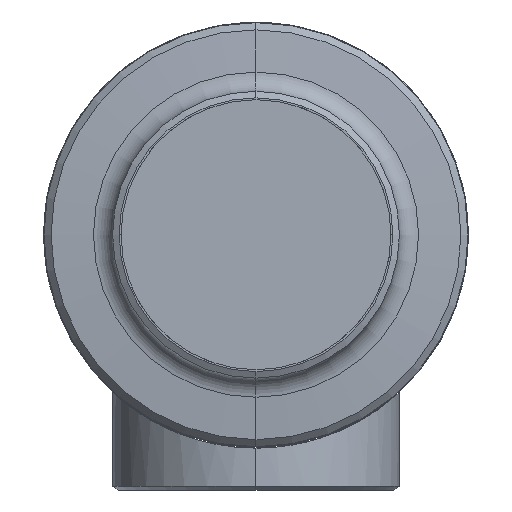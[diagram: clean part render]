
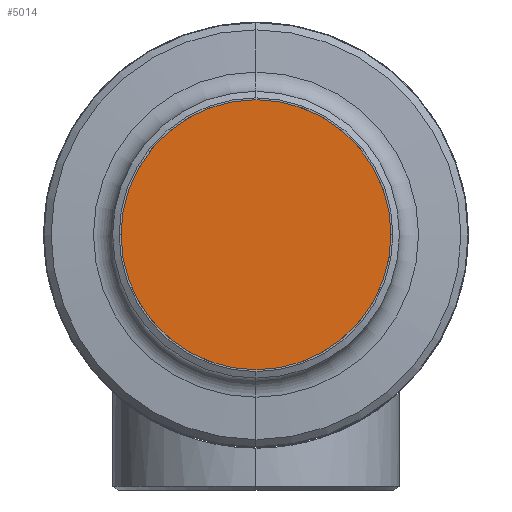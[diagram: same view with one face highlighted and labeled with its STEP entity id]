
A CAD part, front view. The second image highlights one B-rep face of the part: STEP entity #5014.
In plain terms, the highlighted planar face has unit normal (0, -1, 0).
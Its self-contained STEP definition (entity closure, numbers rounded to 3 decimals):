
#1594 = FACE_OUTER_BOUND ( 'NONE', #4997, .T. ) ;
#1595 = PLANE ( 'NONE',  #1596 ) ;
#1596 = AXIS2_PLACEMENT_3D ( 'NONE', #1597, #1598, #1599 ) ;
#1597 = CARTESIAN_POINT ( 'NONE',  ( 0., -48., 0. ) ) ;
#1598 = DIRECTION ( 'NONE',  ( 0., -1., 0. ) ) ;
#1599 = DIRECTION ( 'NONE',  ( 0., 0., -1. ) ) ;
#3165 = CARTESIAN_POINT ( 'NONE',  ( 0., -48., 125. ) ) ;
#3321 = CIRCLE ( 'NONE', #3322, 125. ) ;
#3322 = AXIS2_PLACEMENT_3D ( 'NONE', #3325, #3326, #3327 ) ;
#3325 = CARTESIAN_POINT ( 'NONE',  ( 0., -48., 0. ) ) ;
#3326 = DIRECTION ( 'NONE',  ( 0., -1., 0. ) ) ;
#3327 = DIRECTION ( 'NONE',  ( 0., 0., -1. ) ) ;
#3333 = CARTESIAN_POINT ( 'NONE',  ( 0., -48., -125. ) ) ;
#3414 = CIRCLE ( 'NONE', #3415, 125. ) ;
#3415 = AXIS2_PLACEMENT_3D ( 'NONE', #3416, #3417, #3418 ) ;
#3416 = CARTESIAN_POINT ( 'NONE',  ( 0., -48., 0. ) ) ;
#3417 = DIRECTION ( 'NONE',  ( 0., -1., 0. ) ) ;
#3418 = DIRECTION ( 'NONE',  ( 0., 0., -1. ) ) ;
#4634 = ORIENTED_EDGE ( 'NONE', *, *, #5682, .T. ) ;
#4947 = ORIENTED_EDGE ( 'NONE', *, *, #5670, .T. ) ;
#4997 = EDGE_LOOP ( 'NONE', ( #4947, #4634 ) ) ;
#5014 = ADVANCED_FACE ( 'NONE', ( #1594 ), #1595, .T. ) ;
#5655 = VERTEX_POINT ( 'NONE', #3165 ) ;
#5670 = EDGE_CURVE ( 'NONE', #5655, #5672, #3321, .T. ) ;
#5672 = VERTEX_POINT ( 'NONE', #3333 ) ;
#5682 = EDGE_CURVE ( 'NONE', #5672, #5655, #3414, .T. ) ;
